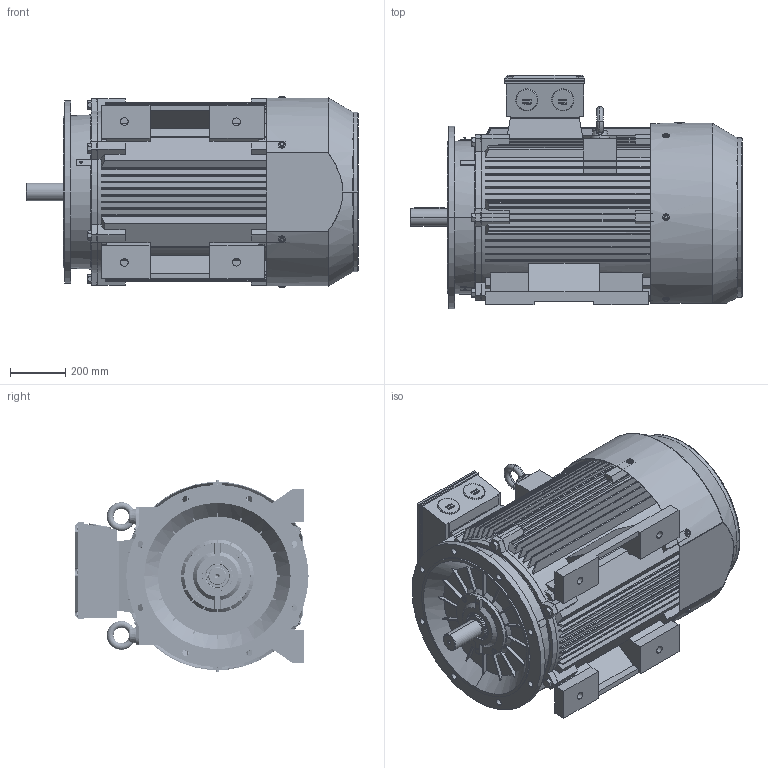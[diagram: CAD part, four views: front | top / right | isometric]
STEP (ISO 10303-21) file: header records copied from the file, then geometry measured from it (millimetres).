
FILE_DESCRIPTION (( 'STEP AP203' ), '1' );
FILE_NAME ('Motor-315S-2_B35_Step.STEP', '2024-06-26T08:01:19', ( '' ), ( '' ), 'SwSTEP 2.0', 'SolidWorks 2021', '' );
FILE_SCHEMA (( 'CONFIG_CONTROL_DESIGN' ));
Length unit declared in the file: millimetre
Products named in the file (23): M10-90_____^Motor-315S-2_B35_Step(2)_Motor-315S-2_B35_Step; Motor-315S-2_B35_Step; TE315-2_____________^Motor-315S-2_B35_Step(2)_Motor-315S-2_B35_Step; TC 315S ____ B3_____^Motor-315S-2_B35_Step(2)_Motor-315S-2_B35_Step; TC 315-4_________^Motor-315S-2_B35_Step(2)_Motor-315S-2_B35_Step; M10-25_____^Motor-315S-2_B35_Step(2)_Motor-315S-2_B35_Step; TE315-2_________^Motor-315S-2_B35_Step(2)_Motor-315S-2_B35_Step; TX315_______________^Motor-315S-2_B35_Step(2)_Motor-315S-2_B35_Step; ____M30_____^Motor-315S-2_B35_Step(2)_Motor-315S-2_B35_Step; _________^Motor-315S-2_B35_Step(2)_Motor-315S-2_B35_Step; TE315-2____0_____^Motor-315S-2_B35_Step(2)_Motor-315S-2_B35_Step; TC 315_____________^Motor-315S-2_B35_Step(2)_Motor-315S-2_B35_Step; TC 315_____________-1^Motor-315S-2_B35_Step(2)_Motor-315S-2_B35_Step; TX315___________________^Motor-315S-2_B35_Step(2)_Motor-315S-2_B35_Step; ____110-85-12_____^Motor-315S-2_B35_Step(2)_Motor-315S-2_B35_Step; TE315-2____B5_____^Motor-315S-2_B35_Step(2)_Motor-315S-2_B35_Step; TC 315S-2 _______^Motor-315S-2_B35_Step(2)_Motor-315S-2_B35_Step; TE315-2_____________-0^Motor-315S-2_B35_Step(2)_Motor-315S-2_B35_Step; ___________________^Motor-315S-2_B35_Step(2)_Motor-315S-2_B35_Step; M63_________^Motor-315S-2_B35_Step(2)_Motor-315S-2_B35_Step; ___________^Motor-315S-2_B35_Step(2)_Motor-315S-2_B35_Step; M20-70_____^Motor-315S-2_B35_Step(2)_Motor-315S-2_B35_Step; Motor-315S-2_B35_Step(2)^Motor-315S-2_B35_Step
Assembly tree (43 placements, depth 3):
  Motor-315S-2_B35_Step
    Motor-315S-2_B35_Step(2)^Motor-315S-2_B35_Step
      ___________________^Motor-315S-2_B35_Step(2)_Motor-315S-2_B35_Step  x6
      M20-70_____^Motor-315S-2_B35_Step(2)_Motor-315S-2_B35_Step  x6
      TX315_______________^Motor-315S-2_B35_Step(2)_Motor-315S-2_B35_Step
      TC 315S ____ B3_____^Motor-315S-2_B35_Step(2)_Motor-315S-2_B35_Step
      ____M30_____^Motor-315S-2_B35_Step(2)_Motor-315S-2_B35_Step  x2
      M10-25_____^Motor-315S-2_B35_Step(2)_Motor-315S-2_B35_Step  x6
      TE315-2_____________^Motor-315S-2_B35_Step(2)_Motor-315S-2_B35_Step  x2
      ___________^Motor-315S-2_B35_Step(2)_Motor-315S-2_B35_Step
      M63_________^Motor-315S-2_B35_Step(2)_Motor-315S-2_B35_Step  x2
      M10-90_____^Motor-315S-2_B35_Step(2)_Motor-315S-2_B35_Step  x4
      TE315-2_____________-0^Motor-315S-2_B35_Step(2)_Motor-315S-2_B35_Step
      TE315-2____B5_____^Motor-315S-2_B35_Step(2)_Motor-315S-2_B35_Step
      _________^Motor-315S-2_B35_Step(2)_Motor-315S-2_B35_Step
      TC 315S-2 _______^Motor-315S-2_B35_Step(2)_Motor-315S-2_B35_Step
      TE315-2_________^Motor-315S-2_B35_Step(2)_Motor-315S-2_B35_Step
      TE315-2____0_____^Motor-315S-2_B35_Step(2)_Motor-315S-2_B35_Step
      TX315___________________^Motor-315S-2_B35_Step(2)_Motor-315S-2_B35_Step
      TC 315_____________^Motor-315S-2_B35_Step(2)_Motor-315S-2_B35_Step
      ____110-85-12_____^Motor-315S-2_B35_Step(2)_Motor-315S-2_B35_Step
      TC 315-4_________^Motor-315S-2_B35_Step(2)_Motor-315S-2_B35_Step
      TC 315_____________-1^Motor-315S-2_B35_Step(2)_Motor-315S-2_B35_Step
Bounding box: 1201.99 x 844 x 694.6 mm (x, y, z)
Volume: 60027359.1 mm3; surface area: 11323889.1 mm2
Topology: 43 solids, 43 shells, 7767 faces, 22032 edges, 14498 vertices
Faces by surface type: plane 3952, cylinder 3053, cone 438, torus 234, bspline 86, sphere 4
Entity records: 262462 total; most frequent: CARTESIAN_POINT 64791, ORIENTED_EDGE 41562, DIRECTION 40122, EDGE_CURVE 20781, AXIS2_PLACEMENT_3D 13804, VERTEX_POINT 13719, VECTOR 12514, LINE 12514
